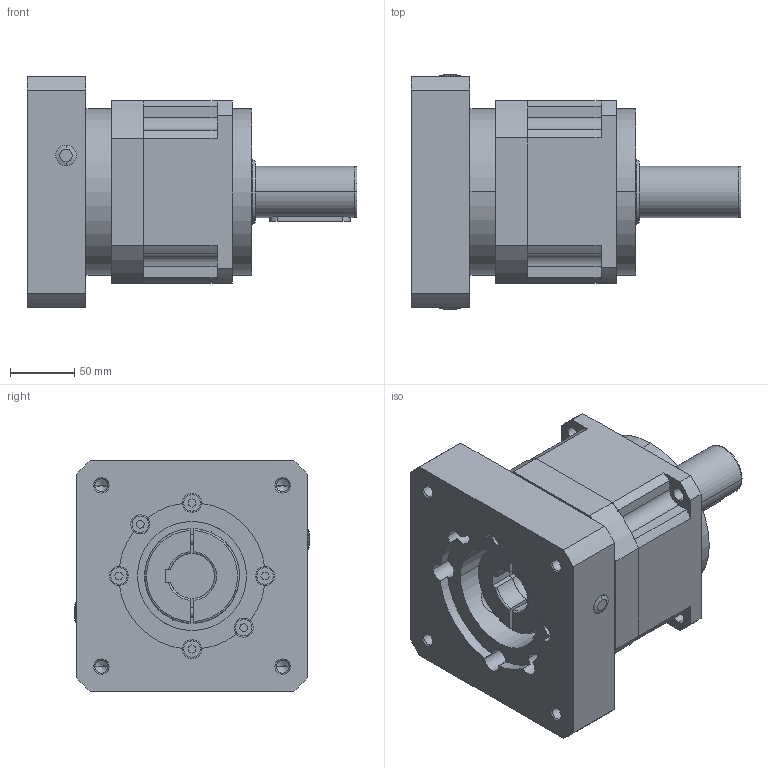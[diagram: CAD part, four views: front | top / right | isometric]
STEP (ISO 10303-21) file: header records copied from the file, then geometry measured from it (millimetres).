
FILE_DESCRIPTION (( 'STEP AP203' ), '1' );
FILE_NAME ('142-L1-35-114.3-200-M12(入力带键槽).STEP', '2020-05-13T08:07:24', ( 'ylmfeng' ), ( 'ylmfeng.com' ), 'SwSTEP 2.0', 'SolidWorks 2014', '' );
FILE_SCHEMA (( 'CONFIG_CONTROL_DESIGN' ));
Length unit declared in the file: millimetre
Products named in the file (1): 142-L1-35-114.3-200-M12(入力带键槽)
Bounding box: 257 x 183 x 180 mm (x, y, z)
Volume: 3437045.2 mm3; surface area: 332676.3 mm2
Topology: 26 solids, 26 shells, 595 faces, 1409 edges, 901 vertices
Faces by surface type: plane 268, cylinder 200, torus 55, cone 44, bspline 28
Entity records: 18884 total; most frequent: CARTESIAN_POINT 4858, DIRECTION 3020, ORIENTED_EDGE 2798, EDGE_CURVE 1399, AXIS2_PLACEMENT_3D 1156, VERTEX_POINT 901, VECTOR 708, LINE 708
